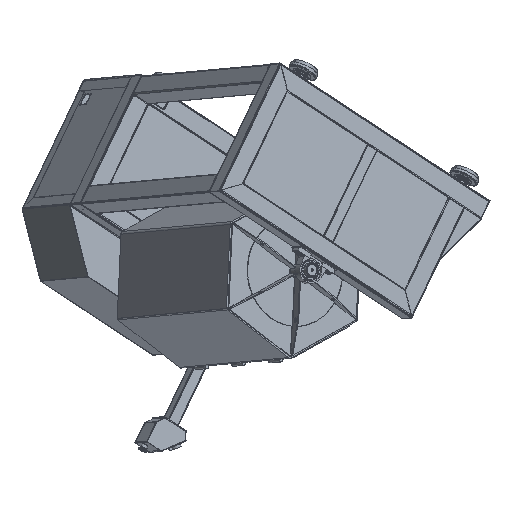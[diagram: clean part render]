
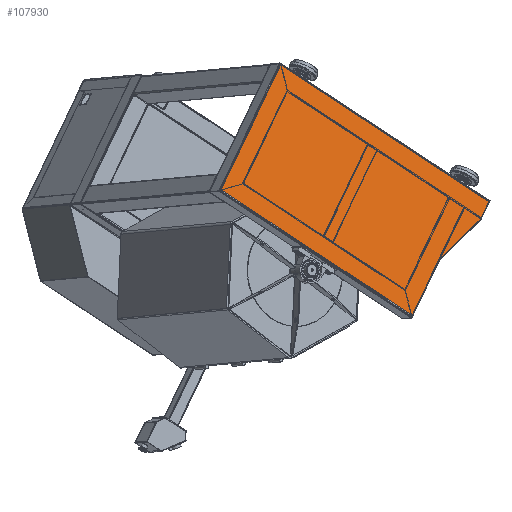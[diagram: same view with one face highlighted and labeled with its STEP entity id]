
A CAD part, top view. The second image highlights one B-rep face of the part: STEP entity #107930.
In plain terms, the highlighted planar face has unit normal (0.499, 0.044, 0.865).
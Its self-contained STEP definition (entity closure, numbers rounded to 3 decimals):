
#107656=CARTESIAN_POINT('Vertex',(97.195,1994.82,1278.025)) ;
#107670=CARTESIAN_POINT('Vertex',(-187.734,1399.56,1472.51)) ;
#107673=CARTESIAN_POINT('Line Origine',(-45.27,1697.19,1375.268)) ;
#107685=CARTESIAN_POINT('Line Origine',(265.38,1102.094,1225.889)) ;
#107689=CARTESIAN_POINT('Vertex',(718.494,804.629,979.267)) ;
#107716=CARTESIAN_POINT('Axis2P3D Location',(720.565,808.955,977.854)) ;
#107720=CARTESIAN_POINT('Vertex',(724.369,806.457,975.783)) ;
#107746=CARTESIAN_POINT('Vertex',(849.803,1068.507,890.166)) ;
#107751=CARTESIAN_POINT('Line Origine',(787.086,937.482,932.975)) ;
#107777=CARTESIAN_POINT('Vertex',(850.74,1069.836,889.558)) ;
#107782=CARTESIAN_POINT('Axis2P3D Location',(853.607,1066.009,888.095)) ;
#107805=CARTESIAN_POINT('Vertex',(1043.267,1260.219,768.814)) ;
#107808=CARTESIAN_POINT('Line Origine',(947.003,1165.027,829.186)) ;
#107830=CARTESIAN_POINT('Axis2P3D Location',(1040.4,1264.046,770.277)) ;
#107834=CARTESIAN_POINT('Vertex',(1044.204,1261.548,768.206)) ;
#107862=CARTESIAN_POINT('Vertex',(1081.035,1348.938,742.541)) ;
#107870=CARTESIAN_POINT('Line Origine',(589.115,1671.879,1010.283)) ;
#107888=CARTESIAN_POINT('Vertex',(1082.769,1342.115,741.883)) ;
#107891=CARTESIAN_POINT('Line Origine',(1063.486,1301.831,755.045)) ;
#107908=CARTESIAN_POINT('Axis2P3D Location',(588.61,1519.841,1018.232)) ;
#107913=CARTESIAN_POINT('Axis2P3D Location',(1078.964,1344.612,743.954)) ;
#107674=DIRECTION('Vector Direction',(0.414,0.865,-0.283)) ;
#107686=DIRECTION('Vector Direction',(-0.761,0.5,0.414)) ;
#107717=DIRECTION('Axis2P3D Direction',(0.5,0.044,0.865)) ;
#107752=DIRECTION('Vector Direction',(-0.414,-0.865,0.283)) ;
#107783=DIRECTION('Axis2P3D Direction',(0.5,0.044,0.865)) ;
#107809=DIRECTION('Vector Direction',(-0.649,-0.642,0.407)) ;
#107831=DIRECTION('Axis2P3D Direction',(0.5,0.044,0.865)) ;
#107871=DIRECTION('Vector Direction',(0.761,-0.5,-0.414)) ;
#107892=DIRECTION('Vector Direction',(-0.414,-0.865,0.283)) ;
#107909=DIRECTION('Axis2P3D Direction',(0.5,0.044,0.865)) ;
#107910=DIRECTION('Axis2P3D XDirection',(-0.761,0.5,0.414)) ;
#107914=DIRECTION('Axis2P3D Direction',(0.5,0.044,0.865)) ;
#107718=AXIS2_PLACEMENT_3D('Circle Axis2P3D',#107716,#107717,$) ;
#107784=AXIS2_PLACEMENT_3D('Circle Axis2P3D',#107782,#107783,$) ;
#107832=AXIS2_PLACEMENT_3D('Circle Axis2P3D',#107830,#107831,$) ;
#107911=AXIS2_PLACEMENT_3D('Plane Axis2P3D',#107908,#107909,#107910) ;
#107915=AXIS2_PLACEMENT_3D('Circle Axis2P3D',#107913,#107914,$) ;
#107919=ORIENTED_EDGE('',*,*,#107874,.T.) ;
#107920=ORIENTED_EDGE('',*,*,#107677,.T.) ;
#107921=ORIENTED_EDGE('',*,*,#107691,.T.) ;
#107922=ORIENTED_EDGE('',*,*,#107722,.F.) ;
#107923=ORIENTED_EDGE('',*,*,#107755,.T.) ;
#107924=ORIENTED_EDGE('',*,*,#107786,.T.) ;
#107925=ORIENTED_EDGE('',*,*,#107812,.T.) ;
#107926=ORIENTED_EDGE('',*,*,#107836,.F.) ;
#107927=ORIENTED_EDGE('',*,*,#107895,.T.) ;
#107928=ORIENTED_EDGE('',*,*,#107917,.F.) ;
#107675=VECTOR('Line Direction',#107674,1.) ;
#107687=VECTOR('Line Direction',#107686,1.) ;
#107753=VECTOR('Line Direction',#107752,1.) ;
#107810=VECTOR('Line Direction',#107809,1.) ;
#107872=VECTOR('Line Direction',#107871,1.) ;
#107893=VECTOR('Line Direction',#107892,1.) ;
#107930=ADVANCED_FACE('Frame-2\\\X2\041E0431044804380432043A0430\X0\',(#107929),#107912,.T.) ;
#107719=CIRCLE('generated circle',#107718,5.) ;
#107785=CIRCLE('generated circle',#107784,5.) ;
#107833=CIRCLE('generated circle',#107832,5.) ;
#107916=CIRCLE('generated circle',#107915,5.) ;
#107677=EDGE_CURVE('',#107657,#107671,#107676,.F.) ;
#107691=EDGE_CURVE('',#107671,#107690,#107688,.F.) ;
#107722=EDGE_CURVE('',#107721,#107690,#107719,.F.) ;
#107755=EDGE_CURVE('',#107721,#107747,#107754,.F.) ;
#107786=EDGE_CURVE('',#107747,#107778,#107785,.F.) ;
#107812=EDGE_CURVE('',#107778,#107806,#107811,.F.) ;
#107836=EDGE_CURVE('',#107835,#107806,#107833,.F.) ;
#107874=EDGE_CURVE('',#107863,#107657,#107873,.F.) ;
#107895=EDGE_CURVE('',#107835,#107889,#107894,.F.) ;
#107917=EDGE_CURVE('',#107863,#107889,#107916,.F.) ;
#107918=EDGE_LOOP('',(#107919,#107920,#107921,#107922,#107923,#107924,#107925,#107926,#107927,#107928)) ;
#107929=FACE_OUTER_BOUND('',#107918,.T.) ;
#107676=LINE('Line',#107673,#107675) ;
#107688=LINE('Line',#107685,#107687) ;
#107754=LINE('Line',#107751,#107753) ;
#107811=LINE('Line',#107808,#107810) ;
#107873=LINE('Line',#107870,#107872) ;
#107894=LINE('Line',#107891,#107893) ;
#107912=PLANE('Plane',#107911) ;
#107657=VERTEX_POINT('',#107656) ;
#107671=VERTEX_POINT('',#107670) ;
#107690=VERTEX_POINT('',#107689) ;
#107721=VERTEX_POINT('',#107720) ;
#107747=VERTEX_POINT('',#107746) ;
#107778=VERTEX_POINT('',#107777) ;
#107806=VERTEX_POINT('',#107805) ;
#107835=VERTEX_POINT('',#107834) ;
#107863=VERTEX_POINT('',#107862) ;
#107889=VERTEX_POINT('',#107888) ;
